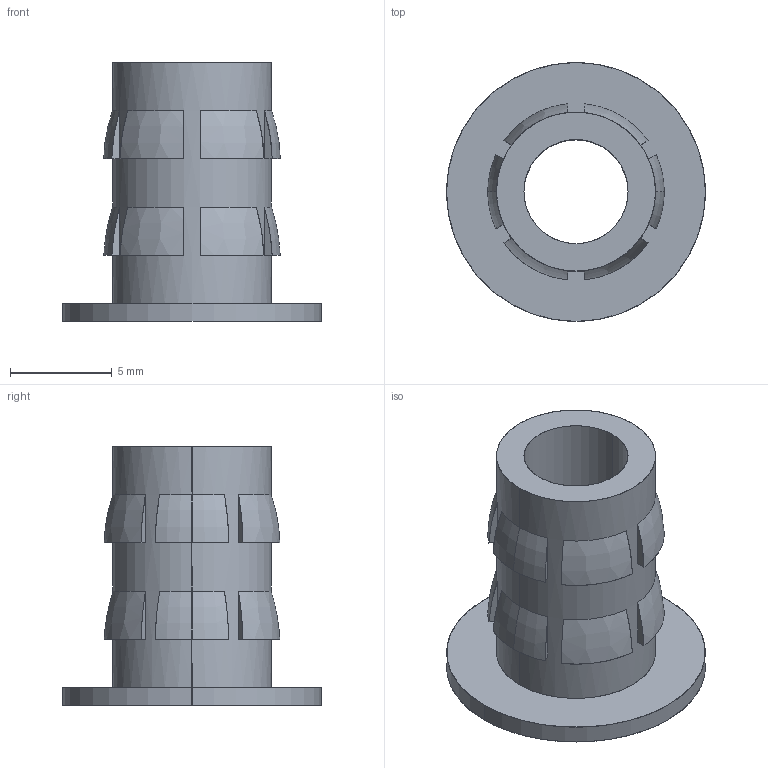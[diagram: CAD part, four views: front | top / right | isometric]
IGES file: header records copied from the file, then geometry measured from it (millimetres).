
Start section: SolidWorks IGES file using analytic representation for surfaces
Global section: file name: G:\thermofab project\INSERT\insert project\INSERT 3D\Flanged insert 1(4)-20.IGS; native system: SolidWorks 2015; preprocessor: SolidWorks 2015; author: Administrator; date: 170809.154725; units: millimetre
Bounding box: 12.7 x 12.7 x 12.7 mm (x, y, z)
Surface area: 774.9 mm2 (no closed solid volume)
Topology: 0 solids, 0 shells, 63 faces, 568 edges, 568 vertices
Faces by surface type: bspline 55, revolution 8
